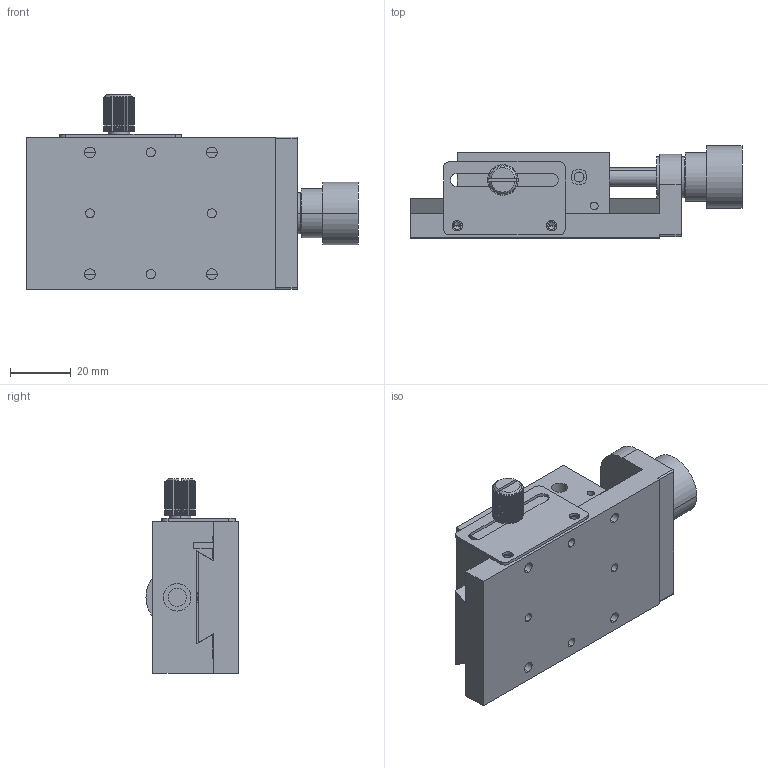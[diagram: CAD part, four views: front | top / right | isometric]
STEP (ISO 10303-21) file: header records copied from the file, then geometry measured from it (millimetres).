
FILE_DESCRIPTION (( 'STEP AP203' ), '1' );
FILE_NAME ('MF0605-89-L-M.STEP', '2019-05-02T01:34:24', ( 'User' ), ( 'No' ), 'SwSTEP 2.0', 'SolidWorks 2012', '' );
FILE_SCHEMA (( 'CONFIG_CONTROL_DESIGN' ));
Length unit declared in the file: millimetre
Products named in the file (3): MF0605-89-L-M-PA; MF0605-89-L-M; MF0605-89-L-M-PB
Assembly tree (2 placements, depth 2):
  MF0605-89-L-M
    MF0605-89-L-M-PA
    MF0605-89-L-M-PB
Bounding box: 109 x 30.25 x 64 mm (x, y, z)
Volume: 97925 mm3; surface area: 33390 mm2
Topology: 2 solids, 5 shells, 396 faces, 1038 edges, 674 vertices
Faces by surface type: plane 195, cylinder 179, cone 22
Entity records: 12619 total; most frequent: CARTESIAN_POINT 2479, DIRECTION 2068, ORIENTED_EDGE 2036, EDGE_CURVE 1018, AXIS2_PLACEMENT_3D 761, VERTEX_POINT 674, LINE 546, VECTOR 546
